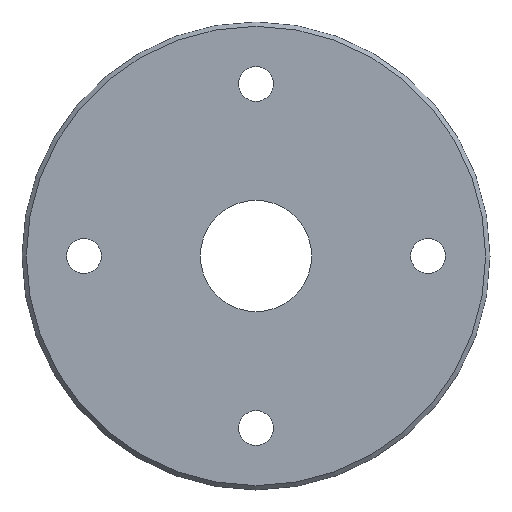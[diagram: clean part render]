
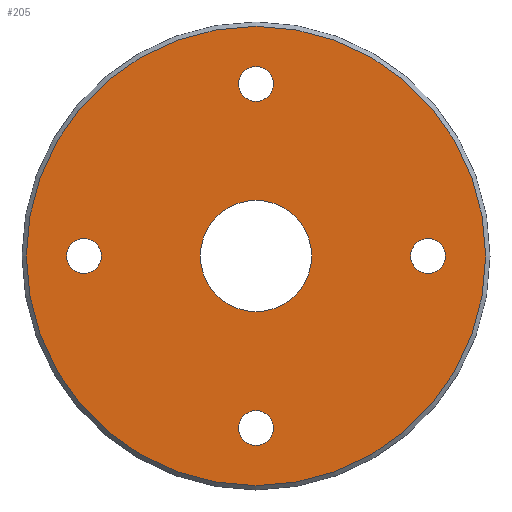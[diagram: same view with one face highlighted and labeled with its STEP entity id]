
A CAD part, left-side view. The second image highlights one B-rep face of the part: STEP entity #205.
In plain terms, the highlighted planar face has unit normal (-1, 0, 0).
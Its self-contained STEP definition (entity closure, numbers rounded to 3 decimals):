
#3 = VERTEX_POINT ( 'NONE', #252 ) ;
#4 = CARTESIAN_POINT ( 'NONE',  ( 0., 0., 0. ) ) ;
#12 = CIRCLE ( 'NONE', #297, 4. ) ;
#14 = VERTEX_POINT ( 'NONE', #339 ) ;
#16 = CARTESIAN_POINT ( 'NONE',  ( 0., 0., 43.7 ) ) ;
#17 = DIRECTION ( 'NONE',  ( -1., 0., 0. ) ) ;
#20 = CARTESIAN_POINT ( 'NONE',  ( 0., 53., 0. ) ) ;
#26 = EDGE_LOOP ( 'NONE', ( #461, #203 ) ) ;
#40 = ORIENTED_EDGE ( 'NONE', *, *, #553, .F. ) ;
#42 = VERTEX_POINT ( 'NONE', #508 ) ;
#43 = FACE_BOUND ( 'NONE', #91, .T. ) ;
#46 = ORIENTED_EDGE ( 'NONE', *, *, #333, .F. ) ;
#65 = AXIS2_PLACEMENT_3D ( 'NONE', #178, #454, #415 ) ;
#68 = DIRECTION ( 'NONE',  ( 0., 0., -1. ) ) ;
#71 = DIRECTION ( 'NONE',  ( -1., 0., 0. ) ) ;
#73 = DIRECTION ( 'NONE',  ( 0., 0., 1. ) ) ;
#76 = CARTESIAN_POINT ( 'NONE',  ( 0., 0., 35.7 ) ) ;
#84 = CARTESIAN_POINT ( 'NONE',  ( 0., 0., 39.7 ) ) ;
#91 = EDGE_LOOP ( 'NONE', ( #458, #550 ) ) ;
#96 = AXIS2_PLACEMENT_3D ( 'NONE', #275, #546, #223 ) ;
#97 = ORIENTED_EDGE ( 'NONE', *, *, #284, .F. ) ;
#108 = DIRECTION ( 'NONE',  ( -1., 0., 0. ) ) ;
#111 = CIRCLE ( 'NONE', #114, 53. ) ;
#114 = AXIS2_PLACEMENT_3D ( 'NONE', #405, #440, #68 ) ;
#118 = DIRECTION ( 'NONE',  ( -1., 0., 0. ) ) ;
#120 = CIRCLE ( 'NONE', #187, 4. ) ;
#130 = DIRECTION ( 'NONE',  ( 0., 0., 1. ) ) ;
#148 = EDGE_CURVE ( 'NONE', #505, #42, #12, .T. ) ;
#150 = DIRECTION ( 'NONE',  ( 0., 0., -1. ) ) ;
#157 = AXIS2_PLACEMENT_3D ( 'NONE', #591, #273, #541 ) ;
#160 = CARTESIAN_POINT ( 'NONE',  ( 0., 0., 12.85 ) ) ;
#172 = CARTESIAN_POINT ( 'NONE',  ( 0., 39.7, 0. ) ) ;
#176 = CIRCLE ( 'NONE', #607, 4. ) ;
#178 = CARTESIAN_POINT ( 'NONE',  ( 0., -39.7, 0. ) ) ;
#180 = VERTEX_POINT ( 'NONE', #476 ) ;
#182 = EDGE_CURVE ( 'NONE', #217, #488, #328, .T. ) ;
#187 = AXIS2_PLACEMENT_3D ( 'NONE', #172, #450, #130 ) ;
#189 = ORIENTED_EDGE ( 'NONE', *, *, #307, .F. ) ;
#203 = ORIENTED_EDGE ( 'NONE', *, *, #602, .F. ) ;
#205 = ADVANCED_FACE ( 'NONE', ( #322, #498, #388, #338, #43, #218 ), #210, .F. ) ;
#210 = PLANE ( 'NONE',  #477 ) ;
#212 = CIRCLE ( 'NONE', #321, 53. ) ;
#217 = VERTEX_POINT ( 'NONE', #16 ) ;
#218 = FACE_BOUND ( 'NONE', #291, .T. ) ;
#223 = DIRECTION ( 'NONE',  ( 0., 0., 1. ) ) ;
#243 = ORIENTED_EDGE ( 'NONE', *, *, #582, .F. ) ;
#252 = CARTESIAN_POINT ( 'NONE',  ( 0., 0., -43.7 ) ) ;
#253 = EDGE_CURVE ( 'NONE', #545, #280, #176, .T. ) ;
#262 = DIRECTION ( 'NONE',  ( 0., 0., -1. ) ) ;
#263 = DIRECTION ( 'NONE',  ( 0., 0., 1. ) ) ;
#271 = AXIS2_PLACEMENT_3D ( 'NONE', #444, #118, #399 ) ;
#273 = DIRECTION ( 'NONE',  ( -1., 0., 0. ) ) ;
#275 = CARTESIAN_POINT ( 'NONE',  ( 0., 0., -39.7 ) ) ;
#278 = CIRCLE ( 'NONE', #96, 4. ) ;
#280 = VERTEX_POINT ( 'NONE', #597 ) ;
#284 = EDGE_CURVE ( 'NONE', #280, #545, #382, .T. ) ;
#290 = AXIS2_PLACEMENT_3D ( 'NONE', #303, #17, #337 ) ;
#291 = EDGE_LOOP ( 'NONE', ( #299, #376 ) ) ;
#297 = AXIS2_PLACEMENT_3D ( 'NONE', #432, #389, #569 ) ;
#299 = ORIENTED_EDGE ( 'NONE', *, *, #148, .F. ) ;
#303 = CARTESIAN_POINT ( 'NONE',  ( 0., 0., 0. ) ) ;
#307 = EDGE_CURVE ( 'NONE', #3, #180, #278, .T. ) ;
#321 = AXIS2_PLACEMENT_3D ( 'NONE', #363, #565, #150 ) ;
#322 = FACE_OUTER_BOUND ( 'NONE', #340, .T. ) ;
#328 = CIRCLE ( 'NONE', #271, 4. ) ;
#330 = CIRCLE ( 'NONE', #290, 12.85 ) ;
#333 = EDGE_CURVE ( 'NONE', #180, #3, #345, .T. ) ;
#337 = DIRECTION ( 'NONE',  ( 0., 0., 1. ) ) ;
#338 = FACE_BOUND ( 'NONE', #372, .T. ) ;
#339 = CARTESIAN_POINT ( 'NONE',  ( 0., 0., -53. ) ) ;
#340 = EDGE_LOOP ( 'NONE', ( #243, #40 ) ) ;
#342 = EDGE_CURVE ( 'NONE', #42, #505, #120, .T. ) ;
#345 = CIRCLE ( 'NONE', #157, 4. ) ;
#358 = CARTESIAN_POINT ( 'NONE',  ( 0., 0., 53. ) ) ;
#363 = CARTESIAN_POINT ( 'NONE',  ( 0., 0., 0. ) ) ;
#372 = EDGE_LOOP ( 'NONE', ( #97, #585 ) ) ;
#376 = ORIENTED_EDGE ( 'NONE', *, *, #342, .F. ) ;
#382 = CIRCLE ( 'NONE', #65, 4. ) ;
#384 = CIRCLE ( 'NONE', #560, 4. ) ;
#388 = FACE_BOUND ( 'NONE', #556, .T. ) ;
#389 = DIRECTION ( 'NONE',  ( -1., 0., 0. ) ) ;
#393 = DIRECTION ( 'NONE',  ( 0., 0., 1. ) ) ;
#397 = CARTESIAN_POINT ( 'NONE',  ( 0., 39.7, 4. ) ) ;
#399 = DIRECTION ( 'NONE',  ( 0., 0., 1. ) ) ;
#401 = CIRCLE ( 'NONE', #526, 12.85 ) ;
#405 = CARTESIAN_POINT ( 'NONE',  ( 0., 0., 0. ) ) ;
#410 = VERTEX_POINT ( 'NONE', #358 ) ;
#415 = DIRECTION ( 'NONE',  ( 0., 0., 1. ) ) ;
#432 = CARTESIAN_POINT ( 'NONE',  ( 0., 39.7, 0. ) ) ;
#435 = CARTESIAN_POINT ( 'NONE',  ( 0., -39.7, 0. ) ) ;
#440 = DIRECTION ( 'NONE',  ( 1., 0., 0. ) ) ;
#444 = CARTESIAN_POINT ( 'NONE',  ( 0., 0., 39.7 ) ) ;
#450 = DIRECTION ( 'NONE',  ( -1., 0., 0. ) ) ;
#454 = DIRECTION ( 'NONE',  ( -1., 0., 0. ) ) ;
#458 = ORIENTED_EDGE ( 'NONE', *, *, #182, .F. ) ;
#459 = EDGE_CURVE ( 'NONE', #540, #533, #401, .T. ) ;
#461 = ORIENTED_EDGE ( 'NONE', *, *, #459, .F. ) ;
#463 = EDGE_CURVE ( 'NONE', #488, #217, #384, .T. ) ;
#476 = CARTESIAN_POINT ( 'NONE',  ( 0., 0., -35.7 ) ) ;
#477 = AXIS2_PLACEMENT_3D ( 'NONE', #20, #577, #262 ) ;
#488 = VERTEX_POINT ( 'NONE', #76 ) ;
#498 = FACE_BOUND ( 'NONE', #26, .T. ) ;
#505 = VERTEX_POINT ( 'NONE', #397 ) ;
#508 = CARTESIAN_POINT ( 'NONE',  ( 0., 39.7, -4. ) ) ;
#525 = DIRECTION ( 'NONE',  ( -1., 0., 0. ) ) ;
#526 = AXIS2_PLACEMENT_3D ( 'NONE', #4, #525, #73 ) ;
#533 = VERTEX_POINT ( 'NONE', #547 ) ;
#535 = CARTESIAN_POINT ( 'NONE',  ( 0., -39.7, -4. ) ) ;
#540 = VERTEX_POINT ( 'NONE', #160 ) ;
#541 = DIRECTION ( 'NONE',  ( 0., 0., 1. ) ) ;
#545 = VERTEX_POINT ( 'NONE', #535 ) ;
#546 = DIRECTION ( 'NONE',  ( -1., 0., 0. ) ) ;
#547 = CARTESIAN_POINT ( 'NONE',  ( 0., 0., -12.85 ) ) ;
#550 = ORIENTED_EDGE ( 'NONE', *, *, #463, .F. ) ;
#553 = EDGE_CURVE ( 'NONE', #410, #14, #111, .T. ) ;
#556 = EDGE_LOOP ( 'NONE', ( #46, #189 ) ) ;
#560 = AXIS2_PLACEMENT_3D ( 'NONE', #84, #71, #263 ) ;
#565 = DIRECTION ( 'NONE',  ( 1., 0., 0. ) ) ;
#569 = DIRECTION ( 'NONE',  ( 0., 0., 1. ) ) ;
#577 = DIRECTION ( 'NONE',  ( 1., 0., 0. ) ) ;
#582 = EDGE_CURVE ( 'NONE', #14, #410, #212, .T. ) ;
#585 = ORIENTED_EDGE ( 'NONE', *, *, #253, .F. ) ;
#591 = CARTESIAN_POINT ( 'NONE',  ( 0., 0., -39.7 ) ) ;
#597 = CARTESIAN_POINT ( 'NONE',  ( 0., -39.7, 4. ) ) ;
#602 = EDGE_CURVE ( 'NONE', #533, #540, #330, .T. ) ;
#607 = AXIS2_PLACEMENT_3D ( 'NONE', #435, #108, #393 ) ;
